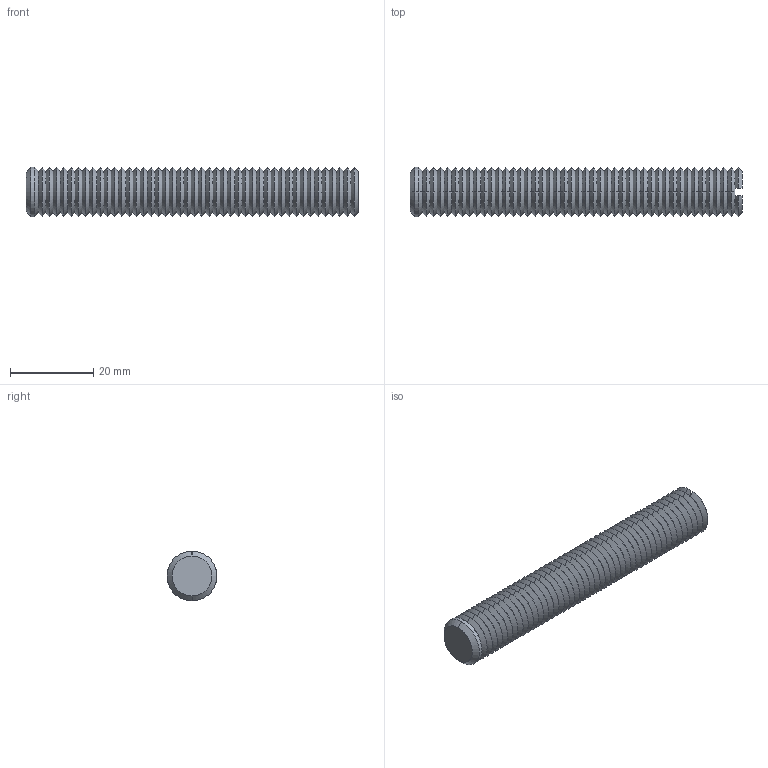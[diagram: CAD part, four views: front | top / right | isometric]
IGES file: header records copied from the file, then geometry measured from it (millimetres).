
Start section: SolidWorks IGES file using analytic representation for surfaces
Global section: file name: C:\Documents and Settings\IANO\Desktop\Temp File\Process pending\EXISTING\34300_v2\34300_v2_20170622_IGES\34300.W0128.igs; native system: SolidWorks 2009; preprocessor: SolidWorks 2009; author: IANO; date: 170622.094311; units: millimetre
Bounding box: 80 x 12 x 12 mm (x, y, z)
Surface area: 4537.8 mm2 (no closed solid volume)
Topology: 0 solids, 0 shells, 188 faces, 816 edges, 816 vertices
Faces by surface type: revolution 182, bspline 6
